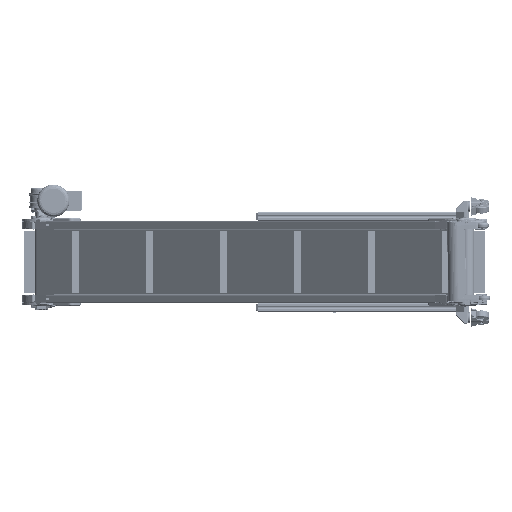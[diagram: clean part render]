
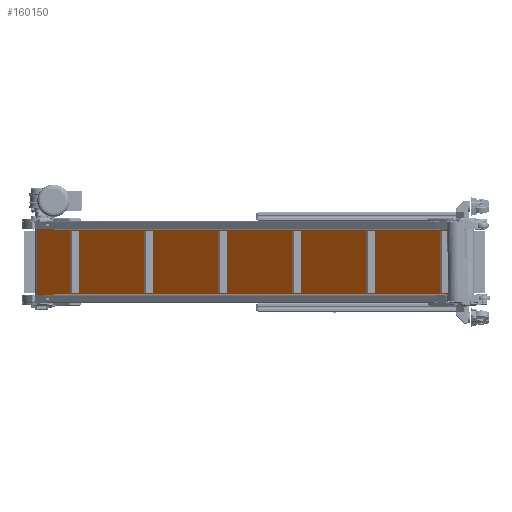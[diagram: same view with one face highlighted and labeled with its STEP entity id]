
A CAD part, left-side view. The second image highlights one B-rep face of the part: STEP entity #160150.
In plain terms, the highlighted planar face has unit normal (-0.707, 0.707, 0).
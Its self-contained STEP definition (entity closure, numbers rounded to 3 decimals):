
#30710 = ORIENTED_EDGE ( 'NONE', *, *, #34979, .F. ) ;
#34979 = EDGE_CURVE ( 'NONE', #542815, #177765, #436577, .T. ) ;
#66731 = CARTESIAN_POINT ( 'NONE',  ( 1955.84, 1644.852, -146.5 ) ) ;
#76669 = VECTOR ( 'NONE', #417410, 1000. ) ;
#79357 = DIRECTION ( 'NONE',  ( 0., 0., -1. ) ) ;
#81227 = CARTESIAN_POINT ( 'NONE',  ( 344.139, 33.151, -146.5 ) ) ;
#103188 = EDGE_CURVE ( 'NONE', #572682, #542815, #206219, .T. ) ;
#109692 = CARTESIAN_POINT ( 'NONE',  ( 1906.342, 1595.354, 146.5 ) ) ;
#130112 = VECTOR ( 'NONE', #254180, 1000. ) ;
#152934 = DIRECTION ( 'NONE',  ( 0.707, -0.707, 0. ) ) ;
#154626 = VECTOR ( 'NONE', #79357, 1000. ) ;
#158718 = PLANE ( 'NONE',  #286194 ) ;
#160150 = ADVANCED_FACE ( 'NONE', ( #419608 ), #158718, .F. ) ;
#170572 = EDGE_CURVE ( 'NONE', #200085, #177765, #248416, .T. ) ;
#177765 = VERTEX_POINT ( 'NONE', #381753 ) ;
#200085 = VERTEX_POINT ( 'NONE', #66731 ) ;
#206219 = LINE ( 'NONE', #109692, #76669 ) ;
#229531 = EDGE_LOOP ( 'NONE', ( #232358, #30710, #467383, #323856 ) ) ;
#232358 = ORIENTED_EDGE ( 'NONE', *, *, #170572, .T. ) ;
#248416 = LINE ( 'NONE', #81227, #130112 ) ;
#254180 = DIRECTION ( 'NONE',  ( -0.707, -0.707, 0. ) ) ;
#258961 = CARTESIAN_POINT ( 'NONE',  ( 1955.84, 1644.852, 146.5 ) ) ;
#286194 = AXIS2_PLACEMENT_3D ( 'NONE', #466451, #152934, #334573 ) ;
#304701 = DIRECTION ( 'NONE',  ( 0., 0., -1. ) ) ;
#323856 = ORIENTED_EDGE ( 'NONE', *, *, #375999, .T. ) ;
#330634 = CARTESIAN_POINT ( 'NONE',  ( 344.139, 33.151, 146.5 ) ) ;
#334573 = DIRECTION ( 'NONE',  ( 0.707, 0.707, 0. ) ) ;
#375999 = EDGE_CURVE ( 'NONE', #572682, #200085, #480768, .T. ) ;
#381753 = CARTESIAN_POINT ( 'NONE',  ( 344.139, 33.151, -146.5 ) ) ;
#397955 = VECTOR ( 'NONE', #304701, 1000. ) ;
#417410 = DIRECTION ( 'NONE',  ( -0.707, -0.707, 0. ) ) ;
#419608 = FACE_OUTER_BOUND ( 'NONE', #229531, .T. ) ;
#436577 = LINE ( 'NONE', #577000, #397955 ) ;
#466451 = CARTESIAN_POINT ( 'NONE',  ( 344.139, 33.151, 146.5 ) ) ;
#467383 = ORIENTED_EDGE ( 'NONE', *, *, #103188, .F. ) ;
#480768 = LINE ( 'NONE', #521812, #154626 ) ;
#521812 = CARTESIAN_POINT ( 'NONE',  ( 1955.84, 1644.852, 146.5 ) ) ;
#542815 = VERTEX_POINT ( 'NONE', #330634 ) ;
#572682 = VERTEX_POINT ( 'NONE', #258961 ) ;
#577000 = CARTESIAN_POINT ( 'NONE',  ( 344.139, 33.151, 146.5 ) ) ;
